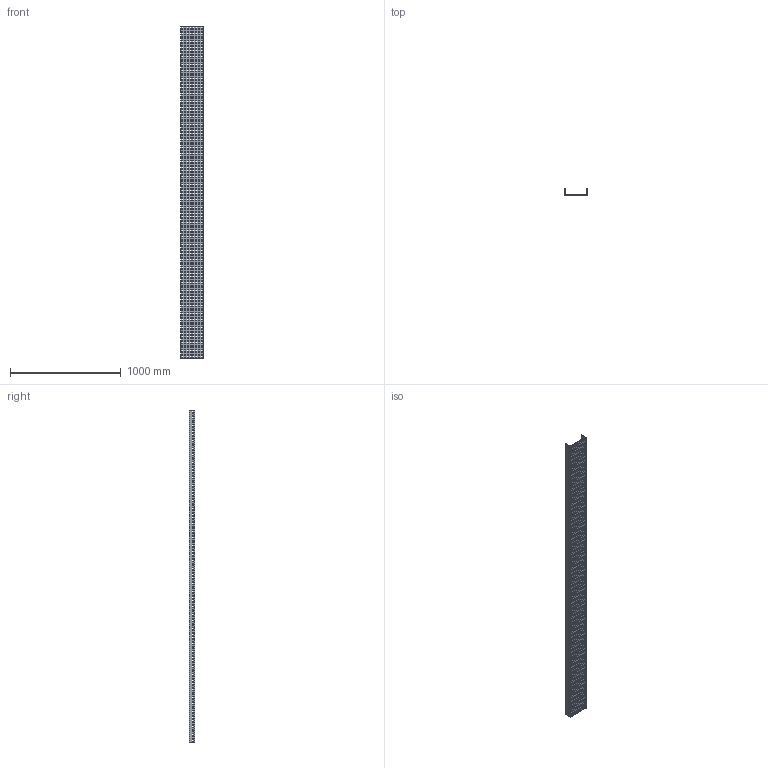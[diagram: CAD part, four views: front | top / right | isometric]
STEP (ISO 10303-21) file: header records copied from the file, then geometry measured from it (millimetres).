
FILE_DESCRIPTION (( 'STEP AP214' ), '1' );
FILE_NAME ('01B3B200.step', '2025-02-21T10:09:59', ( '' ), ( '' ), 'SwSTEP 2.0', 'SolidWorks 2023', '' );
FILE_SCHEMA (( 'AUTOMOTIVE_DESIGN' ));
Length unit declared in the file: millimetre
Products named in the file (1): 01B3B200
Bounding box: 204 x 52 x 3000 mm (x, y, z)
Volume: 2719500 mm3; surface area: 1738387 mm2
Topology: 1 solids, 1 shells, 2890 faces, 8664 edges, 5776 vertices
Faces by surface type: plane 2890
Entity records: 98231 total; most frequent: CARTESIAN_POINT 17331, ORIENTED_EDGE 17328, DIRECTION 14446, LINE 8664, VECTOR 8664, EDGE_CURVE 8664, VERTEX_POINT 5776, EDGE_LOOP 4330
